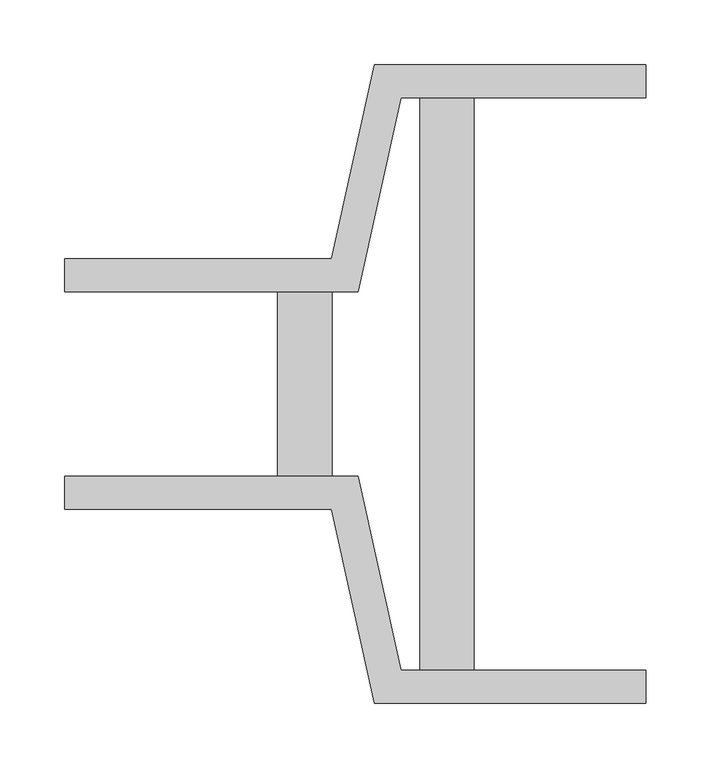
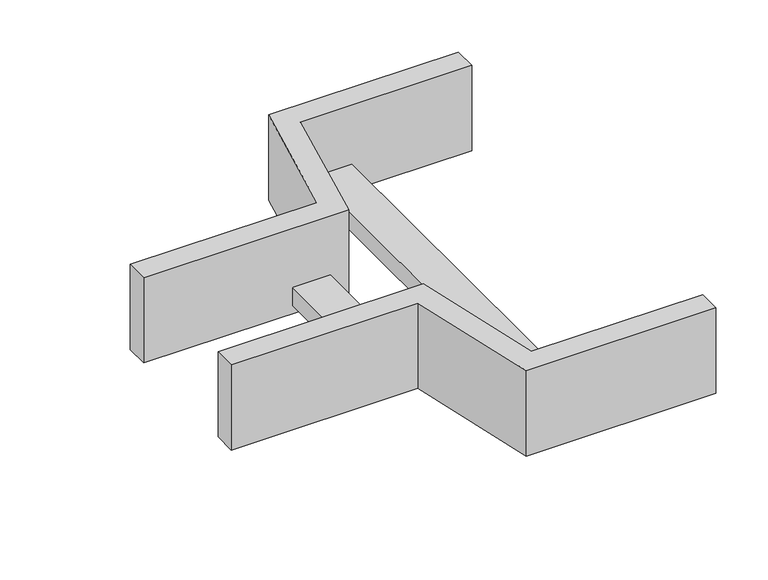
"""IFC4 building model written with IfcOpenShell, lengths in millimetres: cable carrier fitting geometry, Legrand_CableLadder_Swifts_Topaz_Reducer-13 : Straight - Hot Dip Galvanised (after manufacture)."""

from ifc_helpers import new_model, si_unit, frame, origin, place, context, project, spatial, polyline, outline, extrude, source, transform, mapped, element, save


def cable_carrier_fitting_8f1683ba(model_context):
    return source(origin(), model_context, "Body", "SweptSolid", [
        extrude(outline(polyline([(-225.0, 71.5), (-225.0, 97.0), (-18.4141237, 97.0), (14.7618302, 247.0), (225.0, 247.0), (225.0, 221.5), (35.2381698, 221.5), (2.0622159, 71.5), (-225.0, 71.5)])), frame((0.0, 0.0, -50.0), z_axis=(0.0, 0.0, 1.0), x_axis=(1.0, 0.0, 0.0)), (0.0, 0.0, 1.0), 100.0),
        extrude(outline(polyline([(-225.0, -97.0), (-225.0, -71.5), (2.0622159, -71.5), (35.2381698, -221.5), (225.0, -221.5), (225.0, -247.0), (14.7618302, -247.0), (-18.4141237, -97.0), (-225.0, -97.0)])), frame((0.0, 0.0, -50.0), z_axis=(0.0, 0.0, 1.0), x_axis=(1.0, 0.0, 0.0)), (0.0, 0.0, 1.0), 100.0),
        extrude(outline(polyline([(92.0, 221.5), (92.0, -221.5), (50.0, -221.5), (50.0, 221.5), (92.0, 221.5)])), frame((0.0, 0.0, -40.0), z_axis=(0.0, 0.0, 1.0), x_axis=(1.0, 0.0, 0.0)), (0.0, 0.0, 1.0), 21.0),
        extrude(outline(polyline([(-60.1759539, -71.5), (-60.1759539, 71.5), (-18.1759539, 71.5), (-18.1759539, -71.5), (-60.1759539, -71.5)])), frame((0.0, 0.0, -40.0), z_axis=(0.0, 0.0, 1.0), x_axis=(1.0, 0.0, 0.0)), (0.0, 0.0, 1.0), 21.0),
    ])


if __name__ == "__main__":
    model = new_model("IFC4")
    model_context = context("Model", 3, world=origin())
    ifc_project = project(units=[si_unit("LENGTHUNIT", "METRE", prefix="MILLI")], contexts=[model_context])
    site = spatial("IfcSite", under=ifc_project)
    building = spatial("IfcBuilding", under=site)
    placement = place(None, origin())
    cable_carrier_fitting_shape = cable_carrier_fitting_8f1683ba(model_context)
    element("IfcCableCarrierFitting", 1, ObjectType="Legrand_CableLadder_Swifts_Topaz_Reducer-13 : Straight - Hot Dip Galvanised (after manufacture)", at=placement, inside=building, context=model_context, shape_type="MappedRepresentation", body=[
        mapped(cable_carrier_fitting_shape, transform((0.0, 0.0, 0.0), x_axis=(1.0, 0.0, 0.0), y_axis=(0.0, 1.0, 0.0), z_axis=(0.0, 0.0, 1.0))),
    ])
    save(model, "model.ifc")
